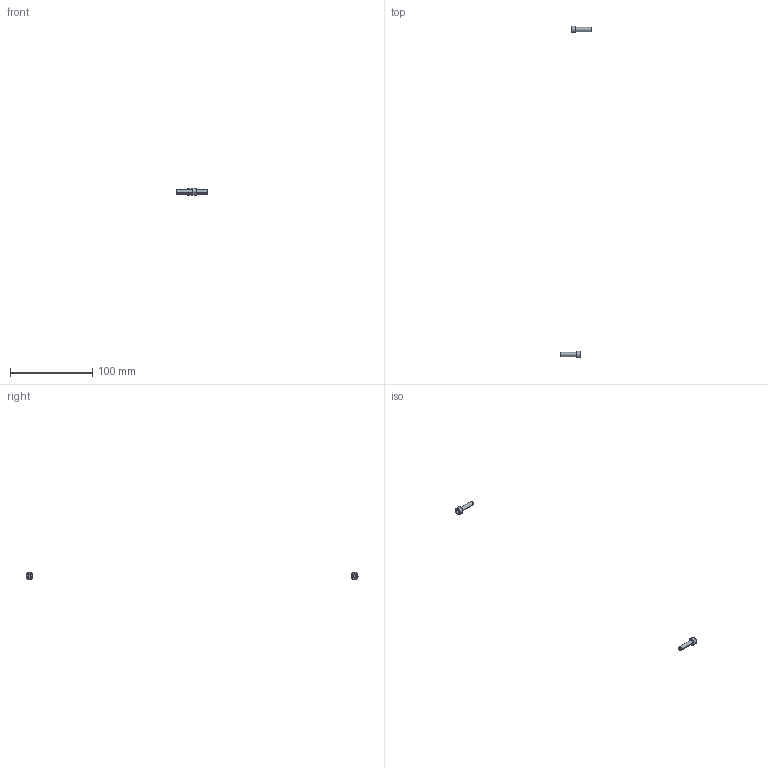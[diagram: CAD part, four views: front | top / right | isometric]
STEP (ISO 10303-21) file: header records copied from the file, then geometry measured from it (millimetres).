
FILE_DESCRIPTION(/* description */ (''),/* implementation_level */ '2;1');
FILE_NAME(/* name */ '4.frame-door#4.6#CB5-20',/* time_stamp */ '2014-12-01T20:12:52+01:00',/* author */ (''),/* organization */ (''),/* preprocessor_version */ 'ST-DEVELOPER v14',/* originating_system */ '',/* authorisation */ '');
FILE_SCHEMA (('AUTOMOTIVE_DESIGN'));
Length unit declared in the file: millimetre
Products named in the file (1): Document
Bounding box: 38 x 404.5 x 8.48 mm (x, y, z)
Volume: 1273.3 mm3; surface area: 1167.4 mm2
Topology: 2 solids, 2 shells, 50 faces, 112 edges, 66 vertices
Faces by surface type: plane 30, bspline 20
Entity records: 2731 total; most frequent: CARTESIAN_POINT 1257, B_SPLINE_CURVE_WITH_KNOTS 252, ORIENTED_EDGE 216, PCURVE 216, DEFINITIONAL_REPRESENTATION 216, SURFACE_CURVE 108, EDGE_CURVE 108, VERTEX_POINT 66
